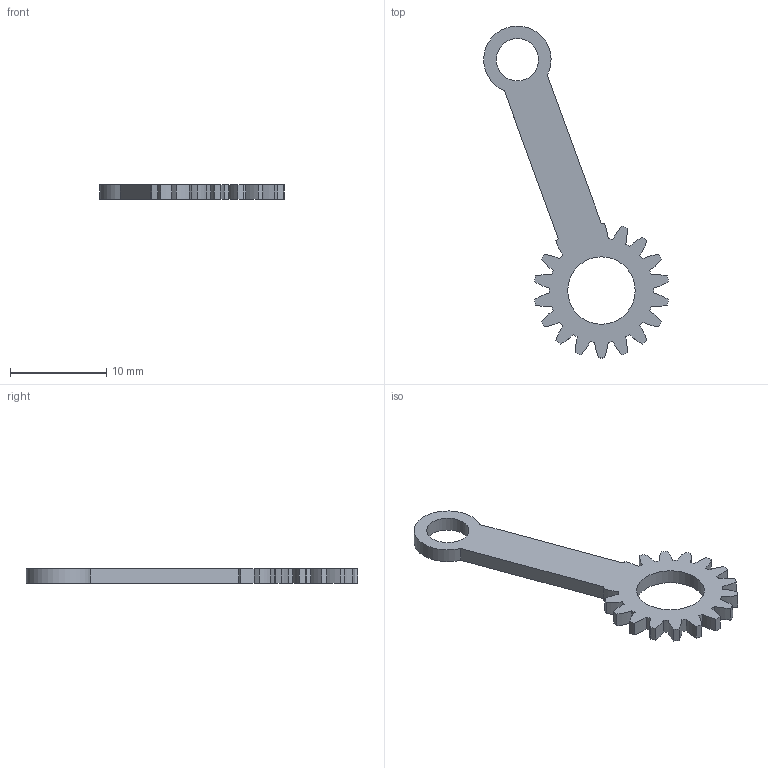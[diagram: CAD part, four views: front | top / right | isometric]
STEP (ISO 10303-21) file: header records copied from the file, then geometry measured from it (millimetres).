
FILE_DESCRIPTION(/* description */ (''),/* implementation_level */ '2;1');
FILE_NAME(/* name */ '3A.stp',/* time_stamp */ '2026-08-07T11:18:18+08:00',/* author */ (''),/* organization */ (''),/* preprocessor_version */ 'ST-DEVELOPER v16.7',/* originating_system */ 'SIEMENS PLM Software NX 12.0',/* authorisation */ '');
FILE_SCHEMA (('AUTOMOTIVE_DESIGN { 1 0 10303 214 3 1 1 1 }'));
Length unit declared in the file: millimetre
Products named in the file (1): 3A
Bounding box: 19.16 x 34.46 x 1.5 mm (x, y, z)
Volume: 277.7 mm3; surface area: 604.5 mm2
Topology: 1 solids, 1 shells, 72 faces, 210 edges, 140 vertices
Faces by surface type: cylinder 68, plane 4
Full cylindrical faces by diameter (mm): 4.4 x1, 7 x1
Entity records: 2502 total; most frequent: DIRECTION 492, CARTESIAN_POINT 423, ORIENTED_EDGE 420, EDGE_CURVE 210, AXIS2_PLACEMENT_3D 209, VERTEX_POINT 140, CIRCLE 136, EDGE_LOOP 76
